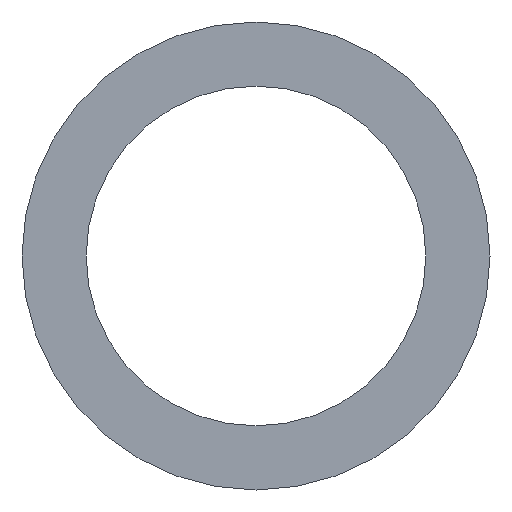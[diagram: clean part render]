
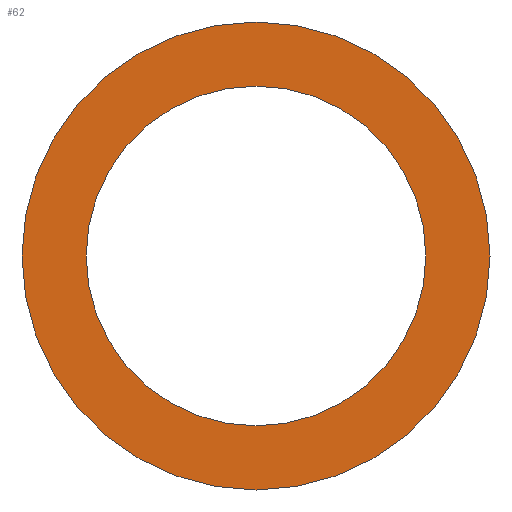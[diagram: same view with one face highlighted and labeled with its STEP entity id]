
A CAD part, front view. The second image highlights one B-rep face of the part: STEP entity #62.
In plain terms, the highlighted planar face has unit normal (0, -1, 0).
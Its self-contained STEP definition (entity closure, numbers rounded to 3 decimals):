
#20=PLANE('',#83);
#26=ORIENTED_EDGE('',*,*,#30,.T.);
#27=ORIENTED_EDGE('',*,*,#32,.F.);
#30=EDGE_CURVE('',#34,#34,#38,.T.);
#32=EDGE_CURVE('',#36,#36,#40,.T.);
#34=VERTEX_POINT('',#106);
#36=VERTEX_POINT('',#111);
#38=CIRCLE('',#78,177.5);
#40=CIRCLE('',#81,244.5);
#46=EDGE_LOOP('',(#26));
#47=EDGE_LOOP('',(#27));
#54=FACE_BOUND('',#46,.T.);
#55=FACE_BOUND('',#47,.T.);
#62=ADVANCED_FACE('',(#54,#55),#20,.F.);
#78=AXIS2_PLACEMENT_3D('',#105,#89,#90);
#81=AXIS2_PLACEMENT_3D('',#110,#95,#96);
#83=AXIS2_PLACEMENT_3D('',#114,#99,#100);
#89=DIRECTION('',(0.,1.,0.));
#90=DIRECTION('',(1.,0.,0.));
#95=DIRECTION('',(0.,1.,0.));
#96=DIRECTION('',(1.,0.,0.));
#99=DIRECTION('',(0.,1.,0.));
#100=DIRECTION('',(0.,0.,1.));
#105=CARTESIAN_POINT('',(0.,-1.5,0.));
#106=CARTESIAN_POINT('',(177.5,-1.5,0.));
#110=CARTESIAN_POINT('',(0.,-1.5,0.));
#111=CARTESIAN_POINT('',(244.5,-1.5,0.));
#114=CARTESIAN_POINT('',(0.,-1.5,0.));
